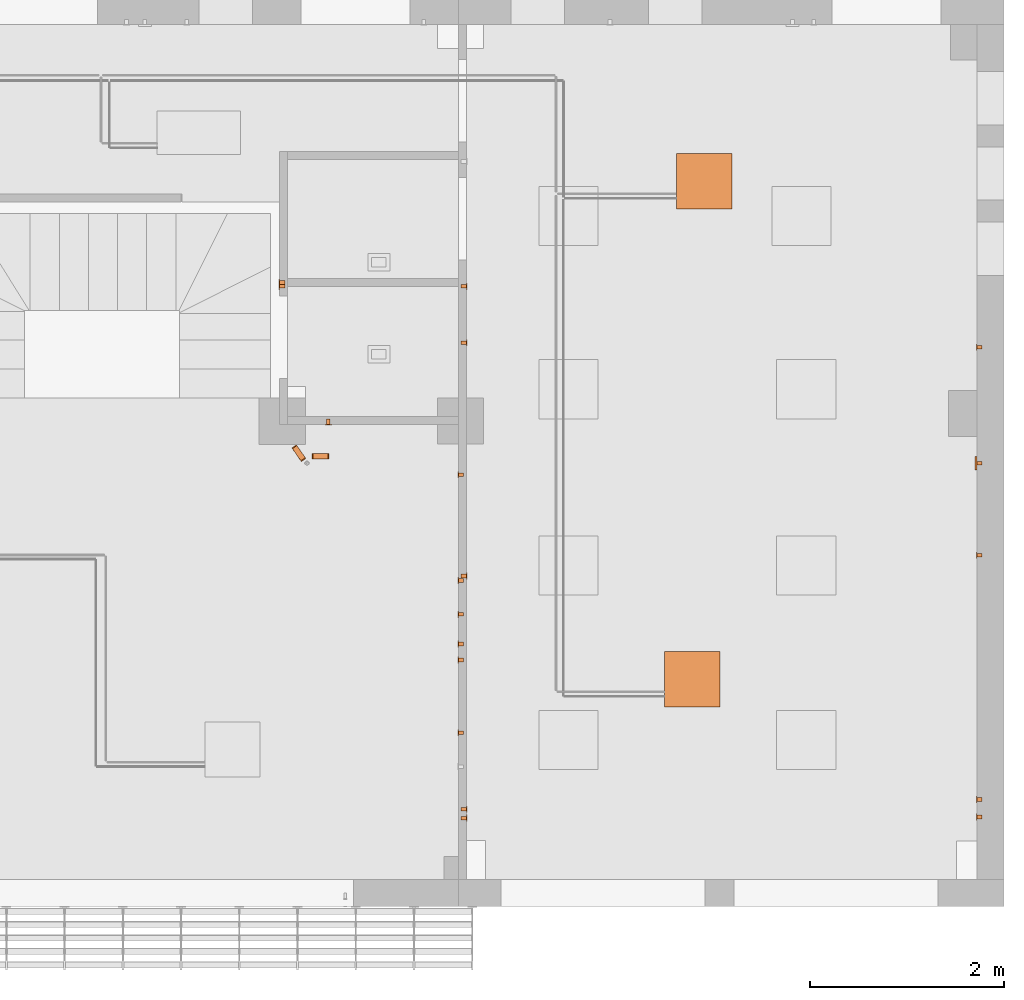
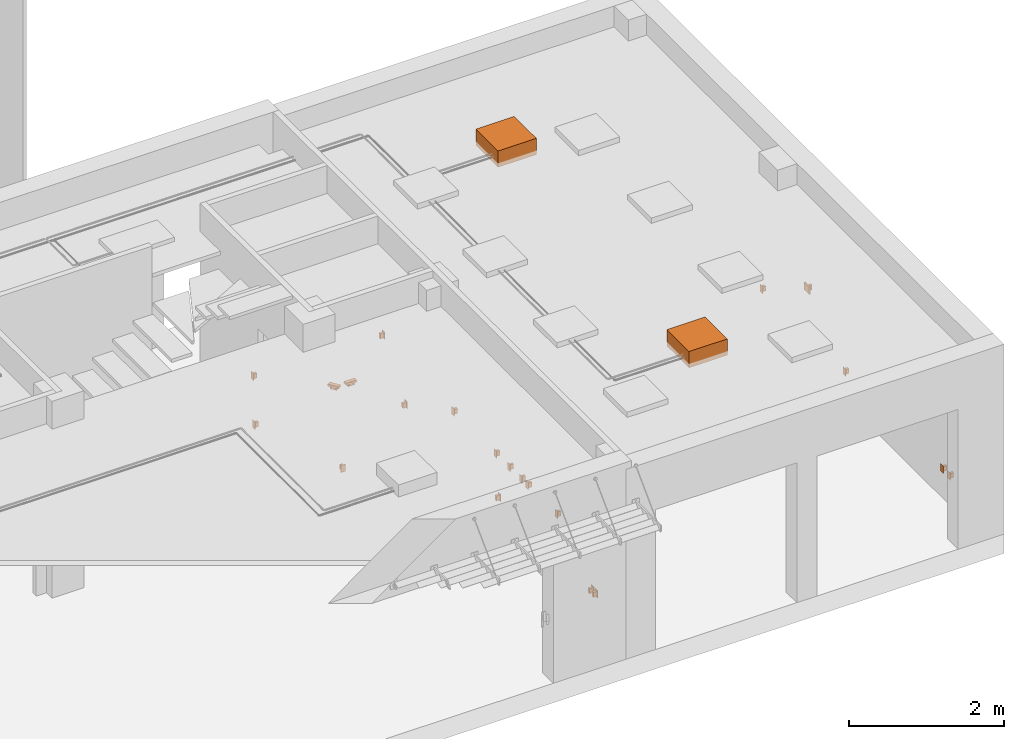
# One storey, part 23 of 24: 23 proxies.
"""IFC2X3 building model written with IfcOpenShell, lengths in millimetres."""

from ifc_helpers import new_model, entity, si_unit, converted_unit, derived_unit, direction, frame, frame_2d, origin, origin_2d_with_axis, place, context, subcontext, project, spatial, polyline, rectangle, circle, outline, extrude, source, transform, mapped, material, material_list, type_object, type_shapes, element, save


model = new_model("IFC2X3")

# Units and contexts
model_context = context("Model", 3, precision=0.01, world=origin(), true_north=direction((6.123031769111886e-17, 1.0)))
body_context = subcontext(model_context, "Body", "Model", "MODEL_VIEW")
ifc_project = project(units=[si_unit("LENGTHUNIT", "METRE", prefix="MILLI"), si_unit("AREAUNIT", "SQUARE_METRE"), si_unit("VOLUMEUNIT", "CUBIC_METRE"), converted_unit("PLANEANGLEUNIT", "DEGREE", entity("IfcRatioMeasure", 0.017453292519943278), si_unit("PLANEANGLEUNIT", "RADIAN"), dimensions=[0, 0, 0, 0, 0, 0, 0]), si_unit("MASSUNIT", "GRAM", prefix="KILO"), derived_unit("MASSDENSITYUNIT", [(si_unit("MASSUNIT", "GRAM", prefix="KILO"), 1), (si_unit("LENGTHUNIT", "METRE"), -3)]), derived_unit("MOMENTOFINERTIAUNIT", [(si_unit("LENGTHUNIT", "METRE"), 4)]), si_unit("TIMEUNIT", "SECOND"), si_unit("FREQUENCYUNIT", "HERTZ"), si_unit("THERMODYNAMICTEMPERATUREUNIT", "DEGREE_CELSIUS"), derived_unit("THERMALTRANSMITTANCEUNIT", [(si_unit("MASSUNIT", "GRAM", prefix="KILO"), 1), (si_unit("THERMODYNAMICTEMPERATUREUNIT", "KELVIN"), -1), (si_unit("TIMEUNIT", "SECOND"), -3)]), derived_unit("VOLUMETRICFLOWRATEUNIT", [(si_unit("LENGTHUNIT", "METRE"), 3), (si_unit("TIMEUNIT", "SECOND"), -1)]), derived_unit("MASSFLOWRATEUNIT", [(si_unit("MASSUNIT", "GRAM", prefix="KILO"), 1), (si_unit("TIMEUNIT", "SECOND"), -1)]), derived_unit("ROTATIONALFREQUENCYUNIT", [(si_unit("TIMEUNIT", "SECOND"), -1)]), si_unit("ELECTRICCURRENTUNIT", "AMPERE"), si_unit("ELECTRICVOLTAGEUNIT", "VOLT"), si_unit("POWERUNIT", "WATT"), si_unit("FORCEUNIT", "NEWTON", prefix="KILO"), si_unit("ILLUMINANCEUNIT", "LUX"), si_unit("LUMINOUSFLUXUNIT", "LUMEN"), si_unit("LUMINOUSINTENSITYUNIT", "CANDELA"), derived_unit("USERDEFINED", [(si_unit("MASSUNIT", "GRAM", prefix="KILO"), -1), (si_unit("LENGTHUNIT", "METRE"), -2), (si_unit("TIMEUNIT", "SECOND"), 3), (si_unit("LUMINOUSFLUXUNIT", "LUMEN"), 1)]), derived_unit("SOUNDPOWERUNIT", [(si_unit("MASSUNIT", "GRAM", prefix="KILO"), 1), (si_unit("LENGTHUNIT", "METRE"), 2), (si_unit("TIMEUNIT", "SECOND"), -3)]), derived_unit("SOUNDPRESSUREUNIT", [(si_unit("MASSUNIT", "GRAM", prefix="KILO"), 1), (si_unit("LENGTHUNIT", "METRE"), -1), (si_unit("TIMEUNIT", "SECOND"), -2)]), derived_unit("LINEARVELOCITYUNIT", [(si_unit("LENGTHUNIT", "METRE"), 1), (si_unit("TIMEUNIT", "SECOND"), -1)]), si_unit("PRESSUREUNIT", "PASCAL"), derived_unit("USERDEFINED", [(si_unit("LENGTHUNIT", "METRE"), -2), (si_unit("MASSUNIT", "GRAM", prefix="KILO"), 1), (si_unit("TIMEUNIT", "SECOND"), -2)]), derived_unit("LINEARFORCEUNIT", [(si_unit("MASSUNIT", "GRAM", prefix="KILO"), 1), (si_unit("LENGTHUNIT", "METRE"), 1), (si_unit("TIMEUNIT", "SECOND"), -2), (si_unit("LENGTHUNIT", "METRE"), -1)]), derived_unit("PLANARFORCEUNIT", [(si_unit("MASSUNIT", "GRAM", prefix="KILO"), 1), (si_unit("LENGTHUNIT", "METRE"), 1), (si_unit("TIMEUNIT", "SECOND"), -2), (si_unit("LENGTHUNIT", "METRE"), -2)])], contexts=[model_context])

# Site, building, storey
site_placement = place(None, origin())
site = spatial("IfcSite", under=ifc_project, at=site_placement, Name="Default", CompositionType="ELEMENT")
building_placement = place(site_placement, origin())
building = spatial("IfcBuilding", under=site, at=building_placement, CompositionType="ELEMENT")
storey_placement = place(building_placement, origin())
storey = spatial("IfcBuildingStorey", under=building, at=storey_placement, Name="Level 1", CompositionType="ELEMENT", Elevation=0.0)

# Proxies
ifc_material_1 = material(Name="<Unnamed>")
ifc_material_list_1 = material_list([ifc_material_1, ifc_material_1])
ifc_material_list_2 = material_list([ifc_material_1, ifc_material_1])
building_element_proxy_type_1 = type_object("IfcBuildingElementProxyType", Name="M_Weather Proof Receptacle:220 V:220 V : M_Weather Proof Receptacle:220 V", PredefinedType="NOTDEFINED", material=ifc_material_list_2)
shared_shape_1 = source(origin(), body_context, "Body", "SweptSolid", [
    extrude(rectangle(XDim=38.09999999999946, YDim=53.97500000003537, at=origin_2d_with_axis()), frame((5632.70529323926, -1371.95230111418, 1161.8999999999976), z_axis=(0.0, 0.0, 1.0), x_axis=(0.0, 1.0, 0.0)), (0.0, 0.0, 1.0), 76.20000000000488),
    extrude(rectangle(XDim=69.8499999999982, YDim=4.762499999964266, at=frame_2d((0.0, -5.415667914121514e-13), x_axis=(1.0, 0.0))), frame((5603.336543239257, -1371.95230111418, 1142.8499999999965), z_axis=(0.0, 0.0, 1.0), x_axis=(0.0, 1.0, 0.0)), (0.0, 0.0, 1.0), 114.30000000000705),
])
type_shapes(building_element_proxy_type_1, [shared_shape_1])
proxy_1_placement = place(storey_placement, origin())
element("IfcBuildingElementProxy", 1, at=proxy_1_placement, inside=storey, type_object=building_element_proxy_type_1, material=ifc_material_list_1, Name="M_Weather Proof Receptacle:220 V:220 V : M_Weather Proof Receptacle:220 V:220 V:220 V : M_Weather Proof Receptacle:220 V : M_Weather Proof Receptacle:220 V:220 V : M_Weather Proof Receptacle:220 V", ObjectType="M_Weather Proof Receptacle:220 V:220 V : M_Weather Proof Receptacle:220 V:220 V:220 V : M_Weather Proof Receptacle:220 V : M_Weather Proof Receptacle:220 V:220 V : M_Weather Proof Receptacle:220 V", context=body_context, shape_type="MappedRepresentation", body=[
    mapped(shared_shape_1, transform((0.0, 0.0, 0.0), scale=1.0)),
])
ifc_material_list_3 = material_list([ifc_material_1, ifc_material_1])
ifc_material_list_4 = material_list([ifc_material_1, ifc_material_1])
building_element_proxy_type_2 = type_object("IfcBuildingElementProxyType", Name="M_Weather Proof Receptacle:220 V:220 V : M_Weather Proof Receptacle:220 V", PredefinedType="NOTDEFINED", material=ifc_material_list_4)
shared_shape_2 = source(origin(), body_context, "Body", "SweptSolid", [
    extrude(rectangle(XDim=38.09999999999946, YDim=53.97500000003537, at=origin_2d_with_axis()), frame((5632.70529323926, -1065.93358792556, 1161.8999999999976), z_axis=(0.0, 0.0, 1.0), x_axis=(0.0, 1.0, 0.0)), (0.0, 0.0, 1.0), 76.20000000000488),
    extrude(rectangle(XDim=69.84999999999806, YDim=4.762499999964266, at=frame_2d((-6.750155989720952e-14, -5.415667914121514e-13), x_axis=(1.0, 0.0))), frame((5603.336543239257, -1065.93358792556, 1142.8499999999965), z_axis=(0.0, 0.0, 1.0), x_axis=(0.0, 1.0, 0.0)), (0.0, 0.0, 1.0), 114.30000000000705),
])
type_shapes(building_element_proxy_type_2, [shared_shape_2])
proxy_2_placement = place(storey_placement, origin())
element("IfcBuildingElementProxy", 2, at=proxy_2_placement, inside=storey, type_object=building_element_proxy_type_2, material=ifc_material_list_3, Name="M_Weather Proof Receptacle:220 V:220 V : M_Weather Proof Receptacle:220 V:220 V:220 V : M_Weather Proof Receptacle:220 V : M_Weather Proof Receptacle:220 V:220 V : M_Weather Proof Receptacle:220 V", ObjectType="M_Weather Proof Receptacle:220 V:220 V : M_Weather Proof Receptacle:220 V:220 V:220 V : M_Weather Proof Receptacle:220 V : M_Weather Proof Receptacle:220 V:220 V : M_Weather Proof Receptacle:220 V", context=body_context, shape_type="MappedRepresentation", body=[
    mapped(shared_shape_2, transform((0.0, 0.0, 0.0), scale=1.0)),
])
ifc_material_list_5 = material_list([ifc_material_1, ifc_material_1])
ifc_material_list_6 = material_list([ifc_material_1, ifc_material_1])
building_element_proxy_type_3 = type_object("IfcBuildingElementProxyType", Name="M_Weather Proof Receptacle:220 V:220 V : M_Weather Proof Receptacle:220 V", PredefinedType="NOTDEFINED", material=ifc_material_list_6)
shared_shape_3 = source(origin(), body_context, "Body", "SweptSolid", [
    extrude(rectangle(XDim=38.09999999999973, YDim=53.97500000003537, at=origin_2d_with_axis()), frame((5632.70529323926, -716.298650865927, 1161.8999999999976), z_axis=(0.0, 0.0, 1.0), x_axis=(0.0, 1.0, 0.0)), (0.0, 0.0, 1.0), 76.20000000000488),
    extrude(rectangle(XDim=69.84999999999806, YDim=4.762499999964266, at=frame_2d((-6.750155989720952e-14, -5.415667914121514e-13), x_axis=(1.0, 0.0))), frame((5603.336543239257, -716.2986508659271, 1142.8499999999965), z_axis=(0.0, 0.0, 1.0), x_axis=(0.0, 1.0, 0.0)), (0.0, 0.0, 1.0), 114.30000000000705),
])
type_shapes(building_element_proxy_type_3, [shared_shape_3])
proxy_3_placement = place(storey_placement, origin())
element("IfcBuildingElementProxy", 3, at=proxy_3_placement, inside=storey, type_object=building_element_proxy_type_3, material=ifc_material_list_5, Name="M_Weather Proof Receptacle:220 V:220 V : M_Weather Proof Receptacle:220 V:220 V:220 V : M_Weather Proof Receptacle:220 V : M_Weather Proof Receptacle:220 V:220 V : M_Weather Proof Receptacle:220 V", ObjectType="M_Weather Proof Receptacle:220 V:220 V : M_Weather Proof Receptacle:220 V:220 V:220 V : M_Weather Proof Receptacle:220 V : M_Weather Proof Receptacle:220 V:220 V : M_Weather Proof Receptacle:220 V", context=body_context, shape_type="MappedRepresentation", body=[
    mapped(shared_shape_3, transform((0.0, 0.0, 0.0), scale=1.0)),
])
ifc_material_list_7 = material_list([ifc_material_1, ifc_material_1])
ifc_material_list_8 = material_list([ifc_material_1, ifc_material_1])
building_element_proxy_type_4 = type_object("IfcBuildingElementProxyType", Name="M_Weather Proof Receptacle:220 V:220 V : M_Weather Proof Receptacle:220 V", PredefinedType="NOTDEFINED", material=ifc_material_list_8)
shared_shape_4 = source(origin(), body_context, "Body", "SweptSolid", [
    extrude(rectangle(XDim=38.099999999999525, YDim=53.97500000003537, at=frame_2d((3.375077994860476e-14, 0.0), x_axis=(1.0, 0.0))), frame((5632.70529323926, 372.42451861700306, 1161.8999999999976), z_axis=(0.0, 0.0, 1.0), x_axis=(0.0, 1.0, 0.0)), (0.0, 0.0, 1.0), 76.20000000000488),
    extrude(rectangle(XDim=69.849999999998, YDim=4.762499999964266, at=frame_2d((3.197442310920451e-14, -5.415667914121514e-13), x_axis=(1.0, 0.0))), frame((5603.336543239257, 372.42451861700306, 1142.8499999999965), z_axis=(0.0, 0.0, 1.0), x_axis=(0.0, 1.0, 0.0)), (0.0, 0.0, 1.0), 114.30000000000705),
])
type_shapes(building_element_proxy_type_4, [shared_shape_4])
proxy_4_placement = place(storey_placement, origin())
element("IfcBuildingElementProxy", 4, at=proxy_4_placement, inside=storey, type_object=building_element_proxy_type_4, material=ifc_material_list_7, Name="M_Weather Proof Receptacle:220 V:220 V : M_Weather Proof Receptacle:220 V:220 V:220 V : M_Weather Proof Receptacle:220 V : M_Weather Proof Receptacle:220 V:220 V : M_Weather Proof Receptacle:220 V", ObjectType="M_Weather Proof Receptacle:220 V:220 V : M_Weather Proof Receptacle:220 V:220 V:220 V : M_Weather Proof Receptacle:220 V : M_Weather Proof Receptacle:220 V:220 V : M_Weather Proof Receptacle:220 V", context=body_context, shape_type="MappedRepresentation", body=[
    mapped(shared_shape_4, transform((0.0, 0.0, 0.0), scale=1.0)),
])
ifc_material_list_9 = material_list([ifc_material_1, ifc_material_1])
ifc_material_list_10 = material_list([ifc_material_1, ifc_material_1])
building_element_proxy_type_5 = type_object("IfcBuildingElementProxyType", Name="M_Weather Proof Receptacle:220 V:220 V : M_Weather Proof Receptacle:220 V", PredefinedType="NOTDEFINED", material=ifc_material_list_10)
shared_shape_5 = source(origin(), body_context, "Body", "SweptSolid", [
    extrude(rectangle(XDim=38.10000000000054, YDim=53.97500000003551, at=frame_2d((-2.7000623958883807e-13, -6.927791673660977e-14), x_axis=(1.0, 0.0))), frame((4266.50764682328, 919.4120186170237, 421.89999999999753), z_axis=(0.0, 0.0, 1.0), x_axis=(-1.0, 0.0, 0.0)), (0.0, 0.0, 1.0), 76.20000000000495),
    extrude(rectangle(XDim=69.84999999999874, YDim=4.762499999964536, at=frame_2d((-2.7000623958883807e-13, 0.0), x_axis=(1.0, 0.0))), frame((4266.50764682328, 890.0432686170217, 402.84999999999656), z_axis=(0.0, 0.0, 1.0), x_axis=(-1.0, 0.0, 0.0)), (0.0, 0.0, 1.0), 114.30000000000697),
])
type_shapes(building_element_proxy_type_5, [shared_shape_5])
proxy_5_placement = place(storey_placement, origin())
element("IfcBuildingElementProxy", 5, at=proxy_5_placement, inside=storey, type_object=building_element_proxy_type_5, material=ifc_material_list_9, Name="M_Weather Proof Receptacle:220 V:220 V : M_Weather Proof Receptacle:220 V:220 V:220 V : M_Weather Proof Receptacle:220 V : M_Weather Proof Receptacle:220 V:220 V : M_Weather Proof Receptacle:220 V", ObjectType="M_Weather Proof Receptacle:220 V:220 V : M_Weather Proof Receptacle:220 V:220 V:220 V : M_Weather Proof Receptacle:220 V : M_Weather Proof Receptacle:220 V:220 V : M_Weather Proof Receptacle:220 V", context=body_context, shape_type="MappedRepresentation", body=[
    mapped(shared_shape_5, transform((0.0, 0.0, 0.0), scale=1.0)),
])
ifc_material_list_11 = material_list([ifc_material_1, ifc_material_1])
ifc_material_list_12 = material_list([ifc_material_1, ifc_material_1])
building_element_proxy_type_6 = type_object("IfcBuildingElementProxyType", Name="M_Receptacle - 220V:Standard:Standard : M_Receptacle - 220V:Standard", PredefinedType="NOTDEFINED", material=ifc_material_list_12)
shared_shape_6 = source(origin(), body_context, "Body", "SweptSolid", [
    extrude(rectangle(XDim=38.09999999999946, YDim=53.97500000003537, at=origin_2d_with_axis()), frame((3791.49514682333, 2313.65770690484, 421.89999999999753), z_axis=(0.0, 0.0, 1.0), x_axis=(0.0, 1.0, 0.0)), (0.0, 0.0, 1.0), 76.20000000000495),
    extrude(rectangle(XDim=69.84999999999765, YDim=4.762499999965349, at=origin_2d_with_axis()), frame((3762.126396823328, 2313.65770690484, 402.84999999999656), z_axis=(0.0, 0.0, 1.0), x_axis=(0.0, 1.0, 0.0)), (0.0, 0.0, 1.0), 114.30000000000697),
])
type_shapes(building_element_proxy_type_6, [shared_shape_6])
proxy_6_placement = place(storey_placement, origin())
element("IfcBuildingElementProxy", 6, at=proxy_6_placement, inside=storey, type_object=building_element_proxy_type_6, material=ifc_material_list_11, Name="M_Receptacle - 220V:Standard:Standard : M_Receptacle - 220V:Standard:Standard:Standard : M_Receptacle - 220V:Standard : M_Receptacle - 220V:Standard:Standard : M_Receptacle - 220V:Standard", ObjectType="M_Receptacle - 220V:Standard:Standard : M_Receptacle - 220V:Standard:Standard:Standard : M_Receptacle - 220V:Standard : M_Receptacle - 220V:Standard:Standard : M_Receptacle - 220V:Standard", context=body_context, shape_type="MappedRepresentation", body=[
    mapped(shared_shape_6, transform((0.0, 0.0, 0.0), scale=1.0)),
])
ifc_material_list_13 = material_list([ifc_material_1, ifc_material_1])
ifc_material_list_14 = material_list([ifc_material_1, ifc_material_1])
building_element_proxy_type_7 = type_object("IfcBuildingElementProxyType", Name="M_Lighting Switches:Single Pole:Single Pole : M_Lighting Switches:Single Pole", PredefinedType="NOTDEFINED", material=ifc_material_list_14)
shared_shape_7 = source(origin(), body_context, "Body", "SweptSolid", [
    extrude(rectangle(XDim=38.09999999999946, YDim=53.97500000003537, at=origin_2d_with_axis()), frame((3791.49514682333, 2353.65770690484, 1161.8999999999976), z_axis=(0.0, 0.0, 1.0), x_axis=(0.0, 1.0, 0.0)), (0.0, 0.0, 1.0), 76.20000000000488),
    extrude(rectangle(XDim=69.84999999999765, YDim=4.762499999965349, at=origin_2d_with_axis()), frame((3762.126396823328, 2353.65770690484, 1142.8499999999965), z_axis=(0.0, 0.0, 1.0), x_axis=(0.0, 1.0, 0.0)), (0.0, 0.0, 1.0), 114.30000000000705),
])
type_shapes(building_element_proxy_type_7, [shared_shape_7])
proxy_7_placement = place(storey_placement, origin())
element("IfcBuildingElementProxy", 7, at=proxy_7_placement, inside=storey, type_object=building_element_proxy_type_7, material=ifc_material_list_13, Name="M_Lighting Switches:Single Pole:Single Pole : M_Lighting Switches:Single Pole:Single Pole:Single Pole : M_Lighting Switches:Single Pole : M_Lighting Switches:Single Pole:Single Pole : M_Lighting Switches:Single Pole", ObjectType="M_Lighting Switches:Single Pole:Single Pole : M_Lighting Switches:Single Pole:Single Pole:Single Pole : M_Lighting Switches:Single Pole : M_Lighting Switches:Single Pole:Single Pole : M_Lighting Switches:Single Pole", context=body_context, shape_type="MappedRepresentation", body=[
    mapped(shared_shape_7, transform((0.0, 0.0, 0.0), scale=1.0)),
])
ifc_material_list_15 = material_list([ifc_material_1, ifc_material_1])
ifc_material_list_16 = material_list([ifc_material_1, ifc_material_1])
building_element_proxy_type_8 = type_object("IfcBuildingElementProxyType", Name="M_Lighting Switches:Single Pole:Single Pole : M_Lighting Switches:Single Pole", PredefinedType="NOTDEFINED", material=ifc_material_list_16)
shared_shape_8 = source(origin(), body_context, "Body", "SweptSolid", [
    extrude(rectangle(XDim=38.09999999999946, YDim=53.97500000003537, at=origin_2d_with_axis()), frame((5632.70529323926, -1536.1167009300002, 1161.8999999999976), z_axis=(0.0, 0.0, 1.0), x_axis=(0.0, 1.0, 0.0)), (0.0, 0.0, 1.0), 76.20000000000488),
    extrude(rectangle(XDim=69.84999999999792, YDim=4.762499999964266, at=frame_2d((-1.3855583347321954e-13, -5.415667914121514e-13), x_axis=(1.0, 0.0))), frame((5603.336543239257, -1536.1167009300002, 1142.8499999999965), z_axis=(0.0, 0.0, 1.0), x_axis=(0.0, 1.0, 0.0)), (0.0, 0.0, 1.0), 114.30000000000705),
])
type_shapes(building_element_proxy_type_8, [shared_shape_8])
proxy_8_placement = place(storey_placement, origin())
element("IfcBuildingElementProxy", 8, at=proxy_8_placement, inside=storey, type_object=building_element_proxy_type_8, material=ifc_material_list_15, Name="M_Lighting Switches:Single Pole:Single Pole : M_Lighting Switches:Single Pole:Single Pole:Single Pole : M_Lighting Switches:Single Pole : M_Lighting Switches:Single Pole:Single Pole : M_Lighting Switches:Single Pole", ObjectType="M_Lighting Switches:Single Pole:Single Pole : M_Lighting Switches:Single Pole:Single Pole:Single Pole : M_Lighting Switches:Single Pole : M_Lighting Switches:Single Pole:Single Pole : M_Lighting Switches:Single Pole", context=body_context, shape_type="MappedRepresentation", body=[
    mapped(shared_shape_8, transform((0.0, 0.0, 0.0), scale=1.0)),
])
ifc_material_list_17 = material_list([ifc_material_1, ifc_material_1])
ifc_material_list_18 = material_list([ifc_material_1, ifc_material_1])
building_element_proxy_type_9 = type_object("IfcBuildingElementProxyType", Name="M_Lighting Switches:Single Pole:Single Pole : M_Lighting Switches:Single Pole", PredefinedType="NOTDEFINED", material=ifc_material_list_18)
shared_shape_9 = source(origin(), body_context, "Body", "SweptSolid", [
    extrude(rectangle(XDim=38.09999999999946, YDim=53.97500000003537, at=origin_2d_with_axis()), frame((5632.70529323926, -2285.33442320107, 1161.8999999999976), z_axis=(0.0, 0.0, 1.0), x_axis=(0.0, 1.0, 0.0)), (0.0, 0.0, 1.0), 76.20000000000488),
    extrude(rectangle(XDim=69.84999999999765, YDim=4.762499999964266, at=frame_2d((0.0, -5.415667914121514e-13), x_axis=(1.0, 0.0))), frame((5603.336543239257, -2285.33442320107, 1142.8499999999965), z_axis=(0.0, 0.0, 1.0), x_axis=(0.0, 1.0, 0.0)), (0.0, 0.0, 1.0), 114.30000000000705),
])
type_shapes(building_element_proxy_type_9, [shared_shape_9])
proxy_9_placement = place(storey_placement, origin())
element("IfcBuildingElementProxy", 9, at=proxy_9_placement, inside=storey, type_object=building_element_proxy_type_9, material=ifc_material_list_17, Name="M_Lighting Switches:Single Pole:Single Pole : M_Lighting Switches:Single Pole:Single Pole:Single Pole : M_Lighting Switches:Single Pole : M_Lighting Switches:Single Pole:Single Pole : M_Lighting Switches:Single Pole", ObjectType="M_Lighting Switches:Single Pole:Single Pole : M_Lighting Switches:Single Pole:Single Pole:Single Pole : M_Lighting Switches:Single Pole : M_Lighting Switches:Single Pole:Single Pole : M_Lighting Switches:Single Pole", context=body_context, shape_type="MappedRepresentation", body=[
    mapped(shared_shape_9, transform((0.0, 0.0, 0.0), scale=1.0)),
])
building_element_proxy_type_10 = type_object("IfcBuildingElementProxyType", Name="Indoor LG 4way simple box KRIPIS v3 SYSTEMS:ARNU15GTQC4:ARNU15GTQC4 : Indoor LG 4way simple box KRIPIS v3 SYSTEMS:ARNU15GTQC4", PredefinedType="NOTDEFINED", material=ifc_material_1)
shared_shape_10 = source(origin(), body_context, "Body", "SweptSolid", [
    extrude(rectangle(XDim=570.0000000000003, YDim=570.0000000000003, at=origin_2d_with_axis()), frame((8137.467953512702, 3396.6886987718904, 2590.0), z_axis=(0.0, 0.0, 1.0), x_axis=(0.0, 1.0, 0.0)), (0.0, 0.0, 1.0), 256.0000000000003),
])
type_shapes(building_element_proxy_type_10, [shared_shape_10])
proxy_10_placement = place(storey_placement, origin())
element("IfcBuildingElementProxy", 10, at=proxy_10_placement, inside=storey, type_object=building_element_proxy_type_10, material=ifc_material_1, context=body_context, shape_type="MappedRepresentation", body=[
    mapped(shared_shape_10, transform((0.0, 0.0, 0.0), scale=1.0)),
])
building_element_proxy_type_11 = type_object("IfcBuildingElementProxyType", Name="Indoor LG 4way simple box KRIPIS v3 SYSTEMS:ARNU15GTQC4:ARNU15GTQC4 : Indoor LG 4way simple box KRIPIS v3 SYSTEMS:ARNU15GTQC4", PredefinedType="NOTDEFINED", material=ifc_material_1)
shared_shape_11 = source(origin(), body_context, "Body", "SweptSolid", [
    extrude(rectangle(XDim=569.9999999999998, YDim=570.0000000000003, at=origin_2d_with_axis()), frame((8015.616485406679, -1733.72925608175, 2590.0), z_axis=(0.0, 0.0, 1.0), x_axis=(0.0, 1.0, 0.0)), (0.0, 0.0, 1.0), 256.0000000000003),
])
type_shapes(building_element_proxy_type_11, [shared_shape_11])
proxy_11_placement = place(storey_placement, origin())
element("IfcBuildingElementProxy", 11, at=proxy_11_placement, inside=storey, type_object=building_element_proxy_type_11, material=ifc_material_1, context=body_context, shape_type="MappedRepresentation", body=[
    mapped(shared_shape_11, transform((0.0, 0.0, 0.0), scale=1.0)),
])
ifc_material_list_19 = material_list([ifc_material_1, ifc_material_1])
ifc_material_list_20 = material_list([ifc_material_1, ifc_material_1])
building_element_proxy_type_12 = type_object("IfcBuildingElementProxyType", Name="M_Receptacle - 220V:Standard:Standard : M_Receptacle - 220V:Standard", PredefinedType="NOTDEFINED", material=ifc_material_list_20)
shared_shape_12 = source(origin(), body_context, "Body", "SweptSolid", [
    extrude(rectangle(XDim=38.09999999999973, YDim=53.97500000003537, at=origin_2d_with_axis()), frame((5660.73029323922, -669.78890741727, 421.89999999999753), z_axis=(0.0, 0.0, 1.0), x_axis=(0.0, -1.0, 0.0)), (0.0, 0.0, 1.0), 76.20000000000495),
    extrude(rectangle(XDim=69.8499999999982, YDim=4.762499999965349, at=origin_2d_with_axis()), frame((5690.099043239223, -669.78890741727, 402.84999999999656), z_axis=(0.0, 0.0, 1.0), x_axis=(0.0, -1.0, 0.0)), (0.0, 0.0, 1.0), 114.30000000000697),
])
type_shapes(building_element_proxy_type_12, [shared_shape_12])
proxy_12_placement = place(storey_placement, origin())
element("IfcBuildingElementProxy", 12, at=proxy_12_placement, inside=storey, type_object=building_element_proxy_type_12, material=ifc_material_list_19, Name="M_Receptacle - 220V:Standard:Standard : M_Receptacle - 220V:Standard:Standard:Standard : M_Receptacle - 220V:Standard : M_Receptacle - 220V:Standard:Standard : M_Receptacle - 220V:Standard", ObjectType="M_Receptacle - 220V:Standard:Standard : M_Receptacle - 220V:Standard:Standard:Standard : M_Receptacle - 220V:Standard : M_Receptacle - 220V:Standard:Standard : M_Receptacle - 220V:Standard", context=body_context, shape_type="MappedRepresentation", body=[
    mapped(shared_shape_12, transform((0.0, 0.0, 0.0), scale=1.0)),
])
ifc_material_list_21 = material_list([ifc_material_1, ifc_material_1])
ifc_material_list_22 = material_list([ifc_material_1, ifc_material_1])
building_element_proxy_type_13 = type_object("IfcBuildingElementProxyType", Name="M_Receptacle - 220V:Standard:Standard : M_Receptacle - 220V:Standard", PredefinedType="NOTDEFINED", material=ifc_material_list_22)
shared_shape_13 = source(origin(), body_context, "Body", "SweptSolid", [
    extrude(rectangle(XDim=38.09999999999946, YDim=53.97500000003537, at=frame_2d((2.7000623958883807e-13, 0.0), x_axis=(1.0, 0.0))), frame((5660.73029323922, -3073.838486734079, 421.89999999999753), z_axis=(0.0, 0.0, 1.0), x_axis=(0.0, -1.0, 0.0)), (0.0, 0.0, 1.0), 76.20000000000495),
    extrude(rectangle(XDim=69.84999999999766, YDim=4.762499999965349, at=frame_2d((-2.7355895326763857e-13, 0.0), x_axis=(1.0, 0.0))), frame((5690.099043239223, -3073.83848673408, 402.84999999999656), z_axis=(0.0, 0.0, 1.0), x_axis=(0.0, -1.0, 0.0)), (0.0, 0.0, 1.0), 114.30000000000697),
])
type_shapes(building_element_proxy_type_13, [shared_shape_13])
proxy_13_placement = place(storey_placement, origin())
element("IfcBuildingElementProxy", 13, at=proxy_13_placement, inside=storey, type_object=building_element_proxy_type_13, material=ifc_material_list_21, Name="M_Receptacle - 220V:Standard:Standard : M_Receptacle - 220V:Standard:Standard:Standard : M_Receptacle - 220V:Standard : M_Receptacle - 220V:Standard:Standard : M_Receptacle - 220V:Standard", ObjectType="M_Receptacle - 220V:Standard:Standard : M_Receptacle - 220V:Standard:Standard:Standard : M_Receptacle - 220V:Standard : M_Receptacle - 220V:Standard:Standard : M_Receptacle - 220V:Standard", context=body_context, shape_type="MappedRepresentation", body=[
    mapped(shared_shape_13, transform((0.0, 0.0, 0.0), scale=1.0)),
])
ifc_material_list_23 = material_list([ifc_material_1, ifc_material_1])
ifc_material_list_24 = material_list([ifc_material_1, ifc_material_1])
building_element_proxy_type_14 = type_object("IfcBuildingElementProxyType", Name="M_Receptacle - 220V:Standard:Standard : M_Receptacle - 220V:Standard", PredefinedType="NOTDEFINED", material=ifc_material_list_24)
shared_shape_14 = source(origin(), body_context, "Body", "SweptSolid", [
    extrude(rectangle(XDim=38.09999999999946, YDim=53.97500000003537, at=frame_2d((-2.7000623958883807e-13, 0.0), x_axis=(1.0, 0.0))), frame((5660.73029323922, -3165.1051739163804, 421.89999999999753), z_axis=(0.0, 0.0, 1.0), x_axis=(0.0, -1.0, 0.0)), (0.0, 0.0, 1.0), 76.20000000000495),
    extrude(rectangle(XDim=69.84999999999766, YDim=4.762499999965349, at=frame_2d((2.7355895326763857e-13, 0.0), x_axis=(1.0, 0.0))), frame((5690.099043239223, -3165.1051739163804, 402.84999999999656), z_axis=(0.0, 0.0, 1.0), x_axis=(0.0, -1.0, 0.0)), (0.0, 0.0, 1.0), 114.30000000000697),
])
type_shapes(building_element_proxy_type_14, [shared_shape_14])
proxy_14_placement = place(storey_placement, origin())
element("IfcBuildingElementProxy", 14, at=proxy_14_placement, inside=storey, type_object=building_element_proxy_type_14, material=ifc_material_list_23, Name="M_Receptacle - 220V:Standard:Standard : M_Receptacle - 220V:Standard:Standard:Standard : M_Receptacle - 220V:Standard : M_Receptacle - 220V:Standard:Standard : M_Receptacle - 220V:Standard", ObjectType="M_Receptacle - 220V:Standard:Standard : M_Receptacle - 220V:Standard:Standard:Standard : M_Receptacle - 220V:Standard : M_Receptacle - 220V:Standard:Standard : M_Receptacle - 220V:Standard", context=body_context, shape_type="MappedRepresentation", body=[
    mapped(shared_shape_14, transform((0.0, 0.0, 0.0), scale=1.0)),
])
ifc_material_list_25 = material_list([ifc_material_1, ifc_material_1])
ifc_material_list_26 = material_list([ifc_material_1, ifc_material_1])
building_element_proxy_type_15 = type_object("IfcBuildingElementProxyType", Name="M_Receptacle - 220V:Standard:Standard : M_Receptacle - 220V:Standard", PredefinedType="NOTDEFINED", material=ifc_material_list_26)
shared_shape_15 = source(origin(), body_context, "Body", "SweptSolid", [
    extrude(rectangle(XDim=38.09999999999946, YDim=53.97500000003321, at=frame_2d((2.7000623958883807e-13, 0.0), x_axis=(1.0, 0.0))), frame((10974.327332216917, -3153.83848673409, 421.89999999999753), z_axis=(0.0, 0.0, 1.0), x_axis=(0.0, 1.0, 0.0)), (0.0, 0.0, 1.0), 76.20000000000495),
    extrude(rectangle(XDim=69.84999999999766, YDim=4.762499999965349, at=frame_2d((2.7355895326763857e-13, 0.0), x_axis=(1.0, 0.0))), frame((10944.958582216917, -3153.83848673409, 402.84999999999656), z_axis=(0.0, 0.0, 1.0), x_axis=(0.0, 1.0, 0.0)), (0.0, 0.0, 1.0), 114.30000000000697),
])
type_shapes(building_element_proxy_type_15, [shared_shape_15])
proxy_15_placement = place(storey_placement, origin())
element("IfcBuildingElementProxy", 15, at=proxy_15_placement, inside=storey, type_object=building_element_proxy_type_15, material=ifc_material_list_25, Name="M_Receptacle - 220V:Standard:Standard : M_Receptacle - 220V:Standard:Standard:Standard : M_Receptacle - 220V:Standard : M_Receptacle - 220V:Standard:Standard : M_Receptacle - 220V:Standard", ObjectType="M_Receptacle - 220V:Standard:Standard : M_Receptacle - 220V:Standard:Standard:Standard : M_Receptacle - 220V:Standard : M_Receptacle - 220V:Standard:Standard : M_Receptacle - 220V:Standard", context=body_context, shape_type="MappedRepresentation", body=[
    mapped(shared_shape_15, transform((0.0, 0.0, 0.0), scale=1.0)),
])
ifc_material_list_27 = material_list([ifc_material_1, ifc_material_1])
ifc_material_list_28 = material_list([ifc_material_1, ifc_material_1])
building_element_proxy_type_16 = type_object("IfcBuildingElementProxyType", Name="M_Receptacle - 220V:Standard:Standard : M_Receptacle - 220V:Standard", PredefinedType="NOTDEFINED", material=ifc_material_list_28)
shared_shape_16 = source(origin(), body_context, "Body", "SweptSolid", [
    extrude(rectangle(XDim=38.09999999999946, YDim=53.97500000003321, at=frame_2d((2.7000623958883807e-13, 0.0), x_axis=(1.0, 0.0))), frame((10974.327332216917, -2973.838486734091, 421.89999999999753), z_axis=(0.0, 0.0, 1.0), x_axis=(0.0, 1.0, 0.0)), (0.0, 0.0, 1.0), 76.20000000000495),
    extrude(rectangle(XDim=69.84999999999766, YDim=4.762499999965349, at=frame_2d((-2.7355895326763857e-13, 0.0), x_axis=(1.0, 0.0))), frame((10944.958582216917, -2973.83848673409, 402.84999999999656), z_axis=(0.0, 0.0, 1.0), x_axis=(0.0, 1.0, 0.0)), (0.0, 0.0, 1.0), 114.30000000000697),
])
type_shapes(building_element_proxy_type_16, [shared_shape_16])
proxy_16_placement = place(storey_placement, origin())
element("IfcBuildingElementProxy", 16, at=proxy_16_placement, inside=storey, type_object=building_element_proxy_type_16, material=ifc_material_list_27, Name="M_Receptacle - 220V:Standard:Standard : M_Receptacle - 220V:Standard:Standard:Standard : M_Receptacle - 220V:Standard : M_Receptacle - 220V:Standard:Standard : M_Receptacle - 220V:Standard", ObjectType="M_Receptacle - 220V:Standard:Standard : M_Receptacle - 220V:Standard:Standard:Standard : M_Receptacle - 220V:Standard : M_Receptacle - 220V:Standard:Standard : M_Receptacle - 220V:Standard", context=body_context, shape_type="MappedRepresentation", body=[
    mapped(shared_shape_16, transform((0.0, 0.0, 0.0), scale=1.0)),
])
ifc_material_list_29 = material_list([ifc_material_1, ifc_material_1])
ifc_material_list_30 = material_list([ifc_material_1, ifc_material_1])
building_element_proxy_type_17 = type_object("IfcBuildingElementProxyType", Name="M_Receptacle - 220V:Standard:Standard : M_Receptacle - 220V:Standard", PredefinedType="NOTDEFINED", material=ifc_material_list_30)
shared_shape_17 = source(origin(), body_context, "Body", "SweptSolid", [
    extrude(rectangle(XDim=38.09999999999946, YDim=53.97500000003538, at=frame_2d((0.0, 1.0818013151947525e-12), x_axis=(1.0, 0.0))), frame((10974.327332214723, 1686.1639164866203, 421.89999999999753), z_axis=(0.0, 0.0, 1.0), x_axis=(0.0, 1.0, 0.0)), (0.0, 0.0, 1.0), 76.20000000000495),
    extrude(rectangle(XDim=69.8499999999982, YDim=4.7624999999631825, at=frame_2d((0.0, 1.0829115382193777e-12), x_axis=(1.0, 0.0))), frame((10944.95858221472, 1686.16391648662, 402.84999999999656), z_axis=(0.0, 0.0, 1.0), x_axis=(0.0, 1.0, 0.0)), (0.0, 0.0, 1.0), 114.30000000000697),
])
type_shapes(building_element_proxy_type_17, [shared_shape_17])
proxy_17_placement = place(storey_placement, origin())
element("IfcBuildingElementProxy", 17, at=proxy_17_placement, inside=storey, type_object=building_element_proxy_type_17, material=ifc_material_list_29, Name="M_Receptacle - 220V:Standard:Standard : M_Receptacle - 220V:Standard:Standard:Standard : M_Receptacle - 220V:Standard : M_Receptacle - 220V:Standard:Standard : M_Receptacle - 220V:Standard", ObjectType="M_Receptacle - 220V:Standard:Standard : M_Receptacle - 220V:Standard:Standard:Standard : M_Receptacle - 220V:Standard : M_Receptacle - 220V:Standard:Standard : M_Receptacle - 220V:Standard", context=body_context, shape_type="MappedRepresentation", body=[
    mapped(shared_shape_17, transform((0.0, 0.0, 0.0), scale=1.0)),
])
ifc_material_list_31 = material_list([ifc_material_1, ifc_material_1])
ifc_material_list_32 = material_list([ifc_material_1, ifc_material_1])
building_element_proxy_type_18 = type_object("IfcBuildingElementProxyType", Name="M_Receptacle - 220V:Standard:Standard : M_Receptacle - 220V:Standard", PredefinedType="NOTDEFINED", material=ifc_material_list_32)
shared_shape_18 = source(origin(), body_context, "Body", "SweptSolid", [
    extrude(rectangle(XDim=38.09999999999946, YDim=53.97500000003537, at=frame_2d((2.7000623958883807e-13, 0.0), x_axis=(1.0, 0.0))), frame((5660.73029323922, 1733.6577069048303, 421.89999999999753), z_axis=(0.0, 0.0, 1.0), x_axis=(0.0, -1.0, 0.0)), (0.0, 0.0, 1.0), 76.20000000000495),
    extrude(rectangle(XDim=69.8499999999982, YDim=4.762499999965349, at=origin_2d_with_axis()), frame((5690.099043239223, 1733.65770690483, 402.84999999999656), z_axis=(0.0, 0.0, 1.0), x_axis=(0.0, -1.0, 0.0)), (0.0, 0.0, 1.0), 114.30000000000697),
])
type_shapes(building_element_proxy_type_18, [shared_shape_18])
proxy_18_placement = place(storey_placement, origin())
element("IfcBuildingElementProxy", 18, at=proxy_18_placement, inside=storey, type_object=building_element_proxy_type_18, material=ifc_material_list_31, Name="M_Receptacle - 220V:Standard:Standard : M_Receptacle - 220V:Standard:Standard:Standard : M_Receptacle - 220V:Standard : M_Receptacle - 220V:Standard:Standard : M_Receptacle - 220V:Standard", ObjectType="M_Receptacle - 220V:Standard:Standard : M_Receptacle - 220V:Standard:Standard:Standard : M_Receptacle - 220V:Standard : M_Receptacle - 220V:Standard:Standard : M_Receptacle - 220V:Standard", context=body_context, shape_type="MappedRepresentation", body=[
    mapped(shared_shape_18, transform((0.0, 0.0, 0.0), scale=1.0)),
])
ifc_material_list_33 = material_list([ifc_material_1, ifc_material_1])
ifc_material_list_34 = material_list([ifc_material_1, ifc_material_1])
building_element_proxy_type_19 = type_object("IfcBuildingElementProxyType", Name="M_Lighting Switches:Single Pole:Single Pole : M_Lighting Switches:Single Pole", PredefinedType="NOTDEFINED", material=ifc_material_list_34)
shared_shape_19 = source(origin(), body_context, "Body", "SweptSolid", [
    extrude(rectangle(XDim=38.09999999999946, YDim=53.97500000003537, at=origin_2d_with_axis()), frame((5660.73029323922, 2313.65770690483, 1161.8999999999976), z_axis=(0.0, 0.0, 1.0), x_axis=(0.0, -1.0, 0.0)), (0.0, 0.0, 1.0), 76.20000000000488),
    extrude(rectangle(XDim=69.84999999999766, YDim=4.762499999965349, at=frame_2d((2.7355895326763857e-13, 0.0), x_axis=(1.0, 0.0))), frame((5690.099043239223, 2313.65770690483, 1142.8499999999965), z_axis=(0.0, 0.0, 1.0), x_axis=(0.0, -1.0, 0.0)), (0.0, 0.0, 1.0), 114.30000000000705),
])
type_shapes(building_element_proxy_type_19, [shared_shape_19])
proxy_19_placement = place(storey_placement, origin())
element("IfcBuildingElementProxy", 19, at=proxy_19_placement, inside=storey, type_object=building_element_proxy_type_19, material=ifc_material_list_33, Name="M_Lighting Switches:Single Pole:Single Pole : M_Lighting Switches:Single Pole:Single Pole:Single Pole : M_Lighting Switches:Single Pole : M_Lighting Switches:Single Pole:Single Pole : M_Lighting Switches:Single Pole", ObjectType="M_Lighting Switches:Single Pole:Single Pole : M_Lighting Switches:Single Pole:Single Pole:Single Pole : M_Lighting Switches:Single Pole : M_Lighting Switches:Single Pole:Single Pole : M_Lighting Switches:Single Pole", context=body_context, shape_type="MappedRepresentation", body=[
    mapped(shared_shape_19, transform((0.0, 0.0, 0.0), scale=1.0)),
])
ifc_material_list_35 = material_list([ifc_material_1, ifc_material_1])
ifc_material_list_36 = material_list([ifc_material_1, ifc_material_1])
building_element_proxy_type_20 = type_object("IfcBuildingElementProxyType", Name="M_Receptacle - 220V:Standard:Standard : M_Receptacle - 220V:Standard", PredefinedType="NOTDEFINED", material=ifc_material_list_36)
shared_shape_20 = source(origin(), body_context, "Body", "SweptSolid", [
    extrude(rectangle(XDim=38.099999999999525, YDim=53.97500000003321, at=frame_2d((3.375077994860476e-14, 0.0), x_axis=(1.0, 0.0))), frame((10974.32733221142, -455.8384867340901, 421.89999999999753), z_axis=(0.0, 0.0, 1.0), x_axis=(0.0, 1.0, 0.0)), (0.0, 0.0, 1.0), 76.20000000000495),
    extrude(rectangle(XDim=69.849999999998, YDim=4.762499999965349, at=frame_2d((-3.197442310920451e-14, 0.0), x_axis=(1.0, 0.0))), frame((10944.958582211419, -455.83848673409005, 402.84999999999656), z_axis=(0.0, 0.0, 1.0), x_axis=(0.0, 1.0, 0.0)), (0.0, 0.0, 1.0), 114.30000000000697),
])
type_shapes(building_element_proxy_type_20, [shared_shape_20])
proxy_20_placement = place(storey_placement, origin())
element("IfcBuildingElementProxy", 20, at=proxy_20_placement, inside=storey, type_object=building_element_proxy_type_20, material=ifc_material_list_35, Name="M_Receptacle - 220V:Standard:Standard : M_Receptacle - 220V:Standard:Standard:Standard : M_Receptacle - 220V:Standard : M_Receptacle - 220V:Standard:Standard : M_Receptacle - 220V:Standard", ObjectType="M_Receptacle - 220V:Standard:Standard : M_Receptacle - 220V:Standard:Standard:Standard : M_Receptacle - 220V:Standard : M_Receptacle - 220V:Standard:Standard : M_Receptacle - 220V:Standard", context=body_context, shape_type="MappedRepresentation", body=[
    mapped(shared_shape_20, transform((0.0, 0.0, 0.0), scale=1.0)),
])
ifc_material_list_37 = material_list([ifc_material_1, ifc_material_1])
ifc_material_list_38 = material_list([ifc_material_1, ifc_material_1])
building_element_proxy_type_21 = type_object("IfcBuildingElementProxyType", Name="Thermostat Kripis v3:Standard:Standard : Thermostat Kripis v3:Standard", PredefinedType="NOTDEFINED", material=ifc_material_list_38)
shared_shape_21 = source(origin(), body_context, "Body", "SweptSolid", [
    extrude(rectangle(XDim=38.099999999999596, YDim=53.97500000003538, at=frame_2d((0.0, 1.0818013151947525e-12), x_axis=(1.0, 0.0))), frame((10974.327332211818, 492.42451861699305, 1161.8999999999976), z_axis=(0.0, 0.0, 1.0), x_axis=(0.0, 1.0, 0.0)), (0.0, 0.0, 1.0), 76.20000000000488),
    extrude(rectangle(XDim=136.02499999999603, YDim=20.73336860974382, at=origin_2d_with_axis()), frame((10936.973147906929, 490.36201861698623, 1142.8499999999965), z_axis=(0.0, 0.0, 1.0), x_axis=(0.0, 1.0, 0.0)), (0.0, 0.0, 1.0), 114.30000000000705),
])
type_shapes(building_element_proxy_type_21, [shared_shape_21])
proxy_21_placement = place(storey_placement, origin())
element("IfcBuildingElementProxy", 21, at=proxy_21_placement, inside=storey, type_object=building_element_proxy_type_21, material=ifc_material_list_37, Name="Thermostat Kripis v3:Standard:Standard : Thermostat Kripis v3:Standard:Standard:Standard : Thermostat Kripis v3:Standard : Thermostat Kripis v3:Standard:Standard : Thermostat Kripis v3:Standard", ObjectType="Thermostat Kripis v3:Standard:Standard : Thermostat Kripis v3:Standard:Standard:Standard : Thermostat Kripis v3:Standard : Thermostat Kripis v3:Standard:Standard : Thermostat Kripis v3:Standard", context=body_context, shape_type="MappedRepresentation", body=[
    mapped(shared_shape_21, transform((0.0, 0.0, 0.0), scale=1.0)),
])
ifc_material_2 = material(Name="Plastic - Sony - Black_Matt")
ifc_material_list_39 = material_list([ifc_material_2, ifc_material_2, ifc_material_2, ifc_material_2])
ifc_material_list_40 = material_list([ifc_material_2, ifc_material_2, ifc_material_2, ifc_material_2])
building_element_proxy_type_22 = type_object("IfcBuildingElementProxyType", Name="Camera ORBBEC v1:Camera ORBBEC v1:Camera ORBBEC v1 : Camera ORBBEC v1:Camera ORBBEC v1", PredefinedType="NOTDEFINED", material=ifc_material_list_40)
shared_shape_22 = source(origin(), body_context, "Body", "SweptSolid", [
    extrude(circle(Radius=9.99999999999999, at=origin_2d_with_axis()), frame((4233.0950501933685, 534.424518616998, 2047.045539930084), z_axis=(0.0, 1.0, 0.0), x_axis=(1.0, 0.0, 0.0)), (0.0, 0.0, 1.0), 2.000000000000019),
    extrude(circle(Radius=9.99999999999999, at=origin_2d_with_axis()), frame((4143.0950501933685, 534.424518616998, 2047.0455399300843), z_axis=(0.0, 1.0, 0.0), x_axis=(1.0, 0.0, 0.0)), (0.0, 0.0, 1.0), 2.000000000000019),
    extrude(circle(Radius=9.99999999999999, at=origin_2d_with_axis()), frame((4196.8450501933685, 534.424518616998, 2047.0455399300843), z_axis=(0.0, 1.0, 0.0), x_axis=(1.0, 0.0, 0.0)), (0.0, 0.0, 1.0), 2.000000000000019),
    extrude(outline(polyline([(8.086050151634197, -83.03474694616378), (28.08605015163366, -83.03474694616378), (38.08605015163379, -65.71423887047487), (11.376977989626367, -19.452768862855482), (20.34812115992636, -14.273276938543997), (32.84812115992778, -35.92391203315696), (50.16862923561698, -25.923912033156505), (2.668629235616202, 56.34850132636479), (-14.651878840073, 46.34850132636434), (-2.1518788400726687, 24.697866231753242), (-11.123022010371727, 19.5183743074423), (-37.91394984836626, 65.92162250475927), (-57.91394984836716, 65.92162250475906), (-67.91394984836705, 48.6011144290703), (8.086050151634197, -83.03474694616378)])), frame((4185.559969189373, 536.424518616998, 2030.481532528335), z_axis=(0.0, 1.0, 0.0), x_axis=(0.5000000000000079, 0.0, -0.8660254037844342)), (0.0, 0.0, 1.0), 55.99999999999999),
])
type_shapes(building_element_proxy_type_22, [shared_shape_22])
proxy_22_placement = place(storey_placement, origin())
element("IfcBuildingElementProxy", 22, at=proxy_22_placement, inside=storey, type_object=building_element_proxy_type_22, material=ifc_material_list_39, Name="Camera ORBBEC v1:Camera ORBBEC v1:Camera ORBBEC v1 : Camera ORBBEC v1:Camera ORBBEC v1:Camera ORBBEC v1:Camera ORBBEC v1 : Camera ORBBEC v1:Camera ORBBEC v1 : Camera ORBBEC v1:Camera ORBBEC v1:Camera ORBBEC v1 : Camera ORBBEC v1:Camera ORBBEC v1", ObjectType="Camera ORBBEC v1:Camera ORBBEC v1:Camera ORBBEC v1 : Camera ORBBEC v1:Camera ORBBEC v1:Camera ORBBEC v1:Camera ORBBEC v1 : Camera ORBBEC v1:Camera ORBBEC v1 : Camera ORBBEC v1:Camera ORBBEC v1:Camera ORBBEC v1 : Camera ORBBEC v1:Camera ORBBEC v1", context=body_context, shape_type="MappedRepresentation", body=[
    mapped(shared_shape_22, transform((0.0, 0.0, 0.0), scale=1.0)),
])
ifc_material_list_41 = material_list([ifc_material_2, ifc_material_2, ifc_material_2, ifc_material_2])
ifc_material_list_42 = material_list([ifc_material_2, ifc_material_2, ifc_material_2, ifc_material_2])
building_element_proxy_type_23 = type_object("IfcBuildingElementProxyType", Name="Camera ORBBEC v1:Camera ORBBEC v1:Camera ORBBEC v1 : Camera ORBBEC v1:Camera ORBBEC v1", PredefinedType="NOTDEFINED", material=ifc_material_list_42)
shared_shape_23 = source(origin(), body_context, "Body", "SweptSolid", [
    extrude(circle(Radius=9.999999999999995, at=origin_2d_with_axis()), frame((3964.8090649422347, 538.7831023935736, 2047.045539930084), z_axis=(0.8215682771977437, 0.5701101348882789, 0.0), x_axis=(0.5701101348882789, -0.8215682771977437, 0.0)), (0.0, 0.0, 1.0), 2.0000000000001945),
    extrude(circle(Radius=9.999999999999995, at=frame_2d((-1.1120616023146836e-13, 0.0), x_axis=(1.0, 0.0))), frame((3913.4991528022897, 612.7242473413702, 2047.0455399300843), z_axis=(0.8215682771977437, 0.5701101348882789, 0.0), x_axis=(0.5701101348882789, -0.8215682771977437, 0.0)), (0.0, 0.0, 1.0), 2.000000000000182),
    extrude(circle(Radius=9.999999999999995, at=origin_2d_with_axis()), frame((3944.142572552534, 568.5649524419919, 2047.0455399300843), z_axis=(0.8215682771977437, 0.5701101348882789, 0.0), x_axis=(0.5701101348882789, -0.8215682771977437, 0.0)), (0.0, 0.0, 1.0), 2.0000000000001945),
    extrude(outline(polyline([(8.086050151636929, -83.03474694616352), (28.086050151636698, -83.03474694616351), (38.08605015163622, -65.71423887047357), (11.376977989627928, -19.452768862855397), (20.348121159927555, -14.273276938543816), (32.848121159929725, -35.9239120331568), (50.168629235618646, -25.923912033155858), (2.6686292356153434, 56.34850132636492), (-14.651878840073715, 46.3485013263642), (-2.151878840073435, 24.697866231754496), (-11.123022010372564, 19.51837430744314), (-37.91394984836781, 65.92162250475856), (-57.91394984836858, 65.92162250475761), (-67.91394984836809, 48.601114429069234), (8.086050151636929, -83.03474694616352)])), frame((3939.3519700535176, 578.9766372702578, 2030.4815325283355), z_axis=(0.8215682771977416, 0.5701101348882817, 0.0), x_axis=(0.2850550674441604, -0.41078413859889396, -0.8660254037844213)), (0.0, 0.0, 1.0), 55.999999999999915),
])
type_shapes(building_element_proxy_type_23, [shared_shape_23])
proxy_23_placement = place(storey_placement, origin())
element("IfcBuildingElementProxy", 23, at=proxy_23_placement, inside=storey, type_object=building_element_proxy_type_23, material=ifc_material_list_41, Name="Camera ORBBEC v1:Camera ORBBEC v1:Camera ORBBEC v1 : Camera ORBBEC v1:Camera ORBBEC v1:Camera ORBBEC v1:Camera ORBBEC v1 : Camera ORBBEC v1:Camera ORBBEC v1 : Camera ORBBEC v1:Camera ORBBEC v1:Camera ORBBEC v1 : Camera ORBBEC v1:Camera ORBBEC v1", ObjectType="Camera ORBBEC v1:Camera ORBBEC v1:Camera ORBBEC v1 : Camera ORBBEC v1:Camera ORBBEC v1:Camera ORBBEC v1:Camera ORBBEC v1 : Camera ORBBEC v1:Camera ORBBEC v1 : Camera ORBBEC v1:Camera ORBBEC v1:Camera ORBBEC v1 : Camera ORBBEC v1:Camera ORBBEC v1", context=body_context, shape_type="MappedRepresentation", body=[
    mapped(shared_shape_23, transform((0.0, 0.0, 0.0), scale=1.0)),
])

save(model, "model.ifc")
